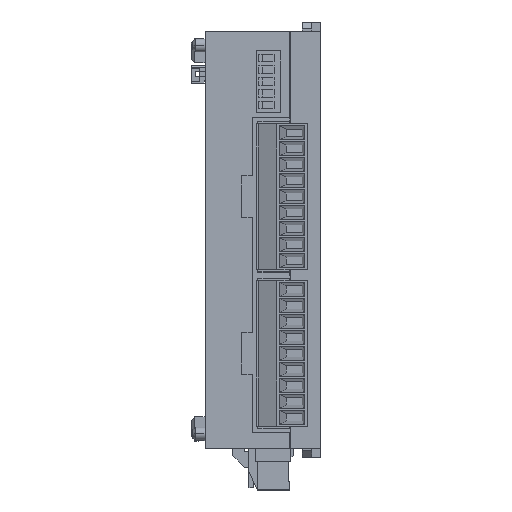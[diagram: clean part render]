
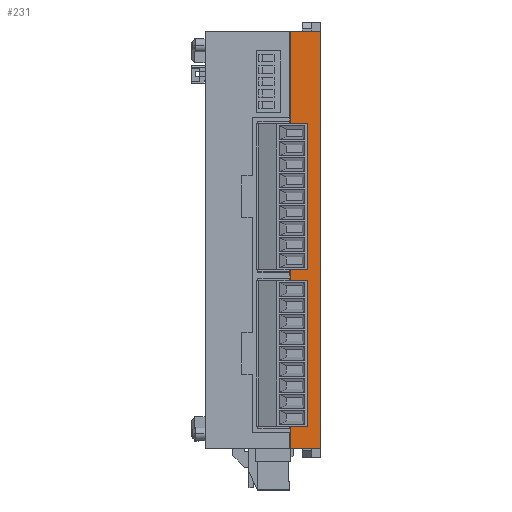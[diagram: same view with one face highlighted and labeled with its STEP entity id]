
A CAD part, top view. The second image highlights one B-rep face of the part: STEP entity #231.
In plain terms, the highlighted planar face has unit normal (0, 0, 1).
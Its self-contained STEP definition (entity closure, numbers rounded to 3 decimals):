
#231 = ADVANCED_FACE ( 'NONE', ( #19810 ), #19805, .T. ) ;
#232 = ORIENTED_EDGE ( 'NONE', *, *, #9200, .T. ) ;
#236 = ORIENTED_EDGE ( 'NONE', *, *, #17126, .T. ) ;
#250 = EDGE_LOOP ( 'NONE', ( #257, #236, #254, #232 ) ) ;
#254 = ORIENTED_EDGE ( 'NONE', *, *, #9518, .T. ) ;
#257 = ORIENTED_EDGE ( 'NONE', *, *, #18543, .F. ) ;
#4178 = LINE ( 'NONE', #4218, #4215 ) ;
#4202 = CARTESIAN_POINT ( 'NONE',  ( 12.5, -45., 60. ) ) ;
#4215 = VECTOR ( 'NONE', #4217, 1000. ) ;
#4217 = DIRECTION ( 'NONE',  ( 1., 0., 0. ) ) ;
#4218 = CARTESIAN_POINT ( 'NONE',  ( -12.5, -45., 60. ) ) ;
#6383 = CARTESIAN_POINT ( 'NONE',  ( 5.9, 45., 60. ) ) ;
#6474 = DIRECTION ( 'NONE',  ( 0., 1., 0. ) ) ;
#6475 = VECTOR ( 'NONE', #6474, 1000. ) ;
#6476 = CARTESIAN_POINT ( 'NONE',  ( 5.9, -45., 60. ) ) ;
#6477 = LINE ( 'NONE', #6476, #6475 ) ;
#6478 = CARTESIAN_POINT ( 'NONE',  ( 5.9, -45., 60. ) ) ;
#9200 = EDGE_CURVE ( 'NONE', #9486, #18497, #21146, .T. ) ;
#9486 = VERTEX_POINT ( 'NONE', #21631 ) ;
#9518 = EDGE_CURVE ( 'NONE', #17141, #9486, #21693, .T. ) ;
#17126 = EDGE_CURVE ( 'NONE', #18544, #17141, #4178, .T. ) ;
#17141 = VERTEX_POINT ( 'NONE', #4202 ) ;
#18497 = VERTEX_POINT ( 'NONE', #6383 ) ;
#18543 = EDGE_CURVE ( 'NONE', #18544, #18497, #6477, .T. ) ;
#18544 = VERTEX_POINT ( 'NONE', #6478 ) ;
#19801 = DIRECTION ( 'NONE',  ( 1., 0., 0. ) ) ;
#19802 = DIRECTION ( 'NONE',  ( 0., 0., 1. ) ) ;
#19805 = PLANE ( 'NONE',  #19828 ) ;
#19810 = FACE_OUTER_BOUND ( 'NONE', #250, .T. ) ;
#19820 = CARTESIAN_POINT ( 'NONE',  ( -12.5, -45., 60. ) ) ;
#19828 = AXIS2_PLACEMENT_3D ( 'NONE', #19820, #19802, #19801 ) ;
#21143 = DIRECTION ( 'NONE',  ( -1., 0., 0. ) ) ;
#21144 = VECTOR ( 'NONE', #21143, 1000. ) ;
#21145 = CARTESIAN_POINT ( 'NONE',  ( -12.5, 45., 60. ) ) ;
#21146 = LINE ( 'NONE', #21145, #21144 ) ;
#21631 = CARTESIAN_POINT ( 'NONE',  ( 12.5, 45., 60. ) ) ;
#21690 = DIRECTION ( 'NONE',  ( 0., 1., 0. ) ) ;
#21691 = VECTOR ( 'NONE', #21690, 1000. ) ;
#21692 = CARTESIAN_POINT ( 'NONE',  ( 12.5, 45., 60. ) ) ;
#21693 = LINE ( 'NONE', #21692, #21691 ) ;
